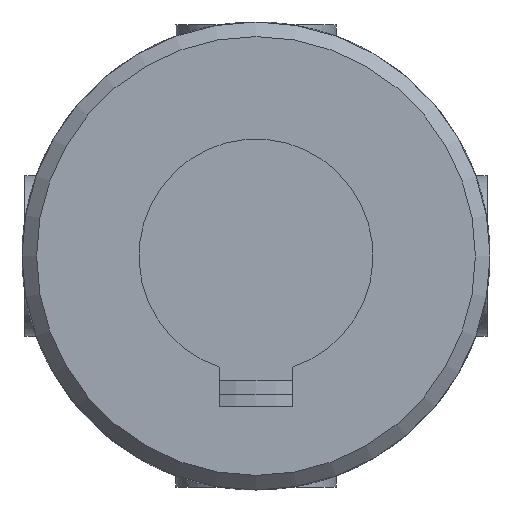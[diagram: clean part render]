
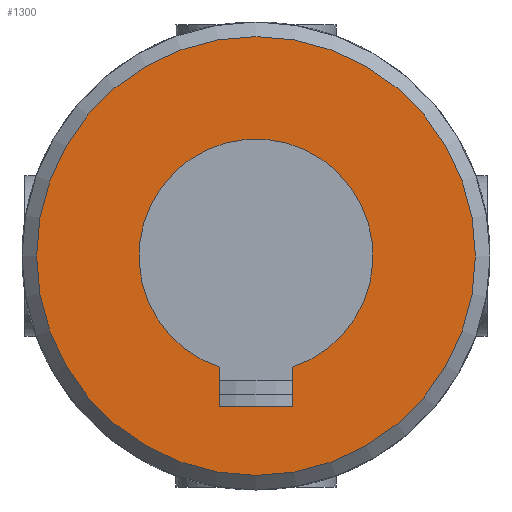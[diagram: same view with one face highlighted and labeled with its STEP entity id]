
A CAD part, front view. The second image highlights one B-rep face of the part: STEP entity #1300.
In plain terms, the highlighted planar face has unit normal (0, -1, 0).
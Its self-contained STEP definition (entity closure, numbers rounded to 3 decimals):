
#141=LINE('',#2347,#186);
#146=LINE('',#2364,#191);
#147=LINE('',#2373,#192);
#186=VECTOR('',#1708,2.701);
#191=VECTOR('',#1719,2.701);
#192=VECTOR('',#1722,5.);
#231=PLANE('',#1437);
#269=FACE_BOUND('',#444,.T.);
#331=FACE_OUTER_BOUND('',#443,.T.);
#443=EDGE_LOOP('',(#1083));
#444=EDGE_LOOP('',(#1084,#1085,#1086,#1087));
#518=CIRCLE('',#1425,8.);
#523=CIRCLE('',#1435,15.);
#616=VERTEX_POINT('',#2336);
#617=VERTEX_POINT('',#2338);
#619=VERTEX_POINT('',#2346);
#625=VERTEX_POINT('',#2362);
#627=VERTEX_POINT('',#2379);
#767=EDGE_CURVE('',#617,#616,#518,.T.);
#770=EDGE_CURVE('',#619,#617,#141,.T.);
#778=EDGE_CURVE('',#616,#625,#146,.T.);
#780=EDGE_CURVE('',#625,#619,#147,.T.);
#783=EDGE_CURVE('',#627,#627,#523,.T.);
#1083=ORIENTED_EDGE('',*,*,#783,.F.);
#1084=ORIENTED_EDGE('',*,*,#778,.T.);
#1085=ORIENTED_EDGE('',*,*,#780,.T.);
#1086=ORIENTED_EDGE('',*,*,#770,.T.);
#1087=ORIENTED_EDGE('',*,*,#767,.T.);
#1300=ADVANCED_FACE('',(#331,#269),#231,.F.);
#1425=AXIS2_PLACEMENT_3D('',#2339,#1703,#1704);
#1435=AXIS2_PLACEMENT_3D('',#2380,#1731,#1732);
#1437=AXIS2_PLACEMENT_3D('',#2592,#1739,#1740);
#1703=DIRECTION('center_axis',(0.,1.,0.));
#1704=DIRECTION('ref_axis',(-0.313,0.,0.95));
#1708=DIRECTION('',(0.,0.,1.));
#1719=DIRECTION('',(0.,0.,-1.));
#1722=DIRECTION('',(-1.,0.,0.));
#1731=DIRECTION('center_axis',(0.,1.,0.));
#1732=DIRECTION('ref_axis',(1.,0.,0.));
#1739=DIRECTION('center_axis',(0.,1.,0.));
#1740=DIRECTION('ref_axis',(0.,0.,1.));
#2336=CARTESIAN_POINT('',(2.5,-42.,-7.599));
#2338=CARTESIAN_POINT('',(-2.5,-42.,-7.599));
#2339=CARTESIAN_POINT('Origin',(0.,-42.,0.));
#2346=CARTESIAN_POINT('',(-2.5,-42.,-10.3));
#2347=CARTESIAN_POINT('',(-2.5,-42.,-5.15));
#2362=CARTESIAN_POINT('',(2.5,-42.,-10.3));
#2364=CARTESIAN_POINT('',(2.5,-42.,-3.8));
#2373=CARTESIAN_POINT('',(1.25,-42.,-10.3));
#2379=CARTESIAN_POINT('',(-15.,-42.,0.));
#2380=CARTESIAN_POINT('Origin',(0.,-42.,0.));
#2592=CARTESIAN_POINT('Origin',(0.,-42.,0.));
